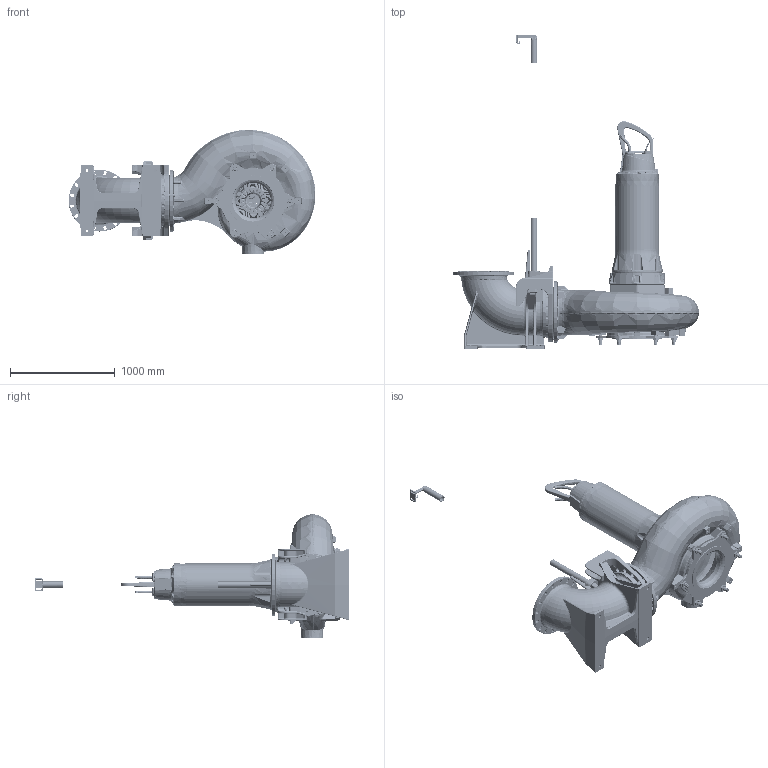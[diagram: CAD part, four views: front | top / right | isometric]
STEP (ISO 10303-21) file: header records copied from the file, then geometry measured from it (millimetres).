
FILE_DESCRIPTION (( 'STEP AP214' ), '1' );
FILE_NAME ('SE5 CFP 405M-CB2 Wet Well.STEP', '2020-09-24T06:37:42', ( '' ), ( '' ), 'SwSTEP 2.0', 'SolidWorks 2017', '' );
FILE_SCHEMA (( 'AUTOMOTIVE_DESIGN' ));
Length unit declared in the file: millimetre
Products named in the file (1): SE5 CFP 405M-CB2 Wet Well
Bounding box: 2353 x 2990 x 1184.25 mm (x, y, z)
Volume: 201415822.3 mm3; surface area: 19721432.7 mm2
Topology: 59 solids, 60 shells, 7531 faces, 18314 edges, 10702 vertices
Faces by surface type: cylinder 2093, bspline 2052, plane 1422, cone 873, torus 815, sphere 276
Entity records: 477441 total; most frequent: CARTESIAN_POINT 234599, ORIENTED_EDGE 35766, DIRECTION 30402, EDGE_CURVE 17883, AXIS2_PLACEMENT_3D 12539, VERTEX_POINT 10696, EDGE_LOOP 8041, UNCERTAINTY_MEASURE_WITH_UNIT 7592
